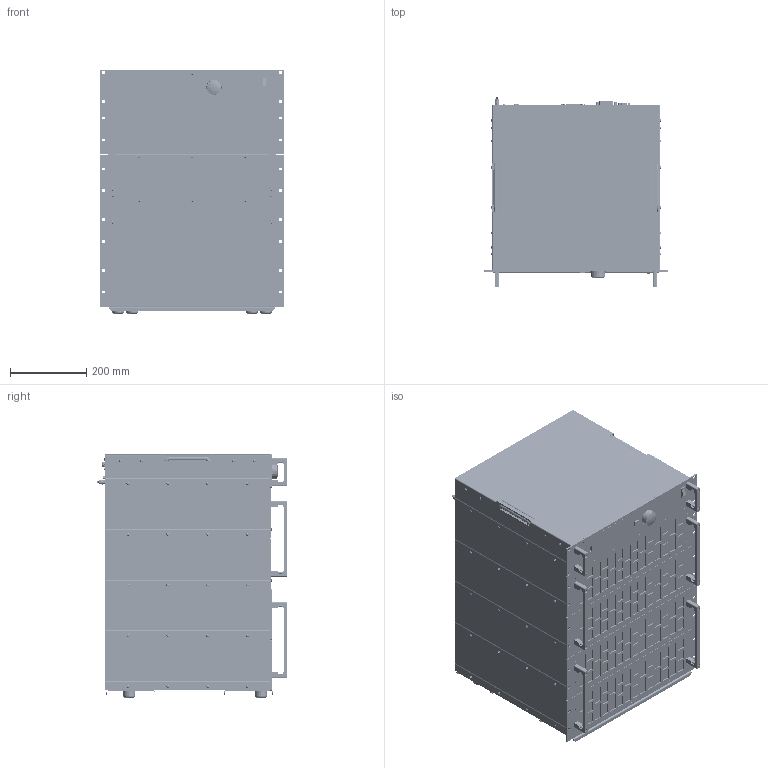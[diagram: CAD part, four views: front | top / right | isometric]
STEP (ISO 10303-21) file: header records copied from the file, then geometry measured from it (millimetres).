
FILE_DESCRIPTION(('STEP AP214'),'1');
FILE_NAME('ACL_M21_19Z_14HE_PH3_15_ST125_BRA_3D_01.step','2022-11-23T07:44:42',(' '),(' '),'Spatial InterOp 3D',' ',' ');
FILE_SCHEMA(('AUTOMOTIVE_DESIGN { 1 0 10303 214 1 1 1 1 }'));
Length unit declared in the file: millimetre
Products named in the file (26): ACLS_3HE_Leistungsteil_Bodenwanne_2_Füße_3D_01; *U290; *U291; *U292; AutoCreatedBlock_3A4; ACL_M21_19Z_14HE_PH3_15_ST125_BRA_3D_01; ACLS_3HE_Leistungsteil_3D_01; *U296; *U297; *U298; AutoCreatedBlock_3A6; 3666_2HE_ug-05_055; ACLSRV_Steuerteil_PH3_15-ST125_BRA_3D_01; *U477; *U478; *U480; *U482; *U484; *U486; *U488; *U489; 2078_ACL_IO Panel_02; *U491; AutoCreatedBlock_3A8; Griff 5HE; AutoCreatedBlock_3A2
Assembly tree (105 placements, depth 3):
  ACL_M21_19Z_14HE_PH3_15_ST125_BRA_3D_01
    ACLS_3HE_Leistungsteil_Bodenwanne_2_Füße_3D_01
      *U290  x8
      *U291  x6
      *U292  x8
      AutoCreatedBlock_3A4
    ACLS_3HE_Leistungsteil_3D_01  x3
      *U296
      *U297
      *U298
      AutoCreatedBlock_3A6
    3666_2HE_ug-05_055  x2
    ACLSRV_Steuerteil_PH3_15-ST125_BRA_3D_01
      *U477  x2
      *U478
      *U480  x3
      *U482  x2
      *U484  x2
      *U486  x13
      *U488  x16
      *U489  x2
      2078_ACL_IO Panel_02
      *U491  x4
      AutoCreatedBlock_3A8
    Griff 5HE  x4
    AutoCreatedBlock_3A2
Bounding box: 482.61 x 497.65 x 639.18 mm (x, y, z)
Volume: 115158525.3 mm3; surface area: 6179725.4 mm2
Topology: 327 solids, 491 shells, 25075 faces, 63274 edges, 39788 vertices
Faces by surface type: plane 12042, cone 8233, cylinder 4115, sphere 278, torus 205, bspline 202
Entity records: 616739 total; most frequent: CARTESIAN_POINT 115183, DIRECTION 78333, ORIENTED_EDGE 75882, EDGE_CURVE 38099, LINE 27031, VECTOR 27031, AXIS2_PLACEMENT_3D 25651, VERTEX_POINT 24033
